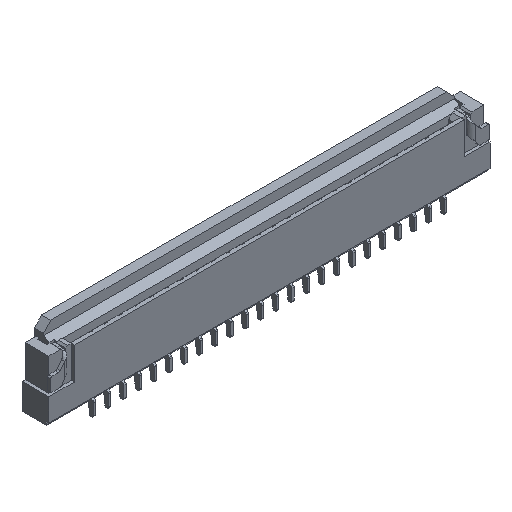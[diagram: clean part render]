
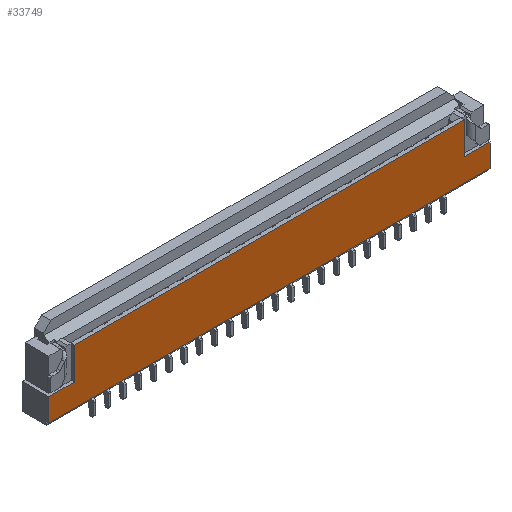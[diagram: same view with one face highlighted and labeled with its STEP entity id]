
A CAD part, isometric view. The second image highlights one B-rep face of the part: STEP entity #33749.
In plain terms, the highlighted planar face has unit normal (0, -1, 0).
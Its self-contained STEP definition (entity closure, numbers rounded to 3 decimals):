
#1705=DIRECTION('',(0.,0.,-1.));
#1706=VECTOR('',#1705,1.5);
#1707=CARTESIAN_POINT('',(-11.95,-0.875,-0.15));
#1708=LINE('',#1707,#1706);
#1709=DIRECTION('',(-1.,0.,0.));
#1710=VECTOR('',#1709,1.665);
#1711=CARTESIAN_POINT('',(-10.285,-0.875,-0.15));
#1712=LINE('',#1711,#1710);
#1713=DIRECTION('',(0.,0.,-1.));
#1714=VECTOR('',#1713,2.1);
#1715=CARTESIAN_POINT('',(-10.285,-0.875,1.95));
#1716=LINE('',#1715,#1714);
#1717=DIRECTION('',(1.,0.,0.));
#1718=VECTOR('',#1717,25.57);
#1719=CARTESIAN_POINT('',(-10.285,-0.875,1.95));
#1720=LINE('',#1719,#1718);
#1721=DIRECTION('',(0.,0.,-1.));
#1722=VECTOR('',#1721,2.1);
#1723=CARTESIAN_POINT('',(15.285,-0.875,1.95));
#1724=LINE('',#1723,#1722);
#1725=DIRECTION('',(1.,0.,0.));
#1726=VECTOR('',#1725,1.665);
#1727=CARTESIAN_POINT('',(15.285,-0.875,-0.15));
#1728=LINE('',#1727,#1726);
#1729=DIRECTION('',(0.,0.,-1.));
#1730=VECTOR('',#1729,1.5);
#1731=CARTESIAN_POINT('',(16.95,-0.875,-0.15));
#1732=LINE('',#1731,#1730);
#1785=DIRECTION('',(1.,0.,0.));
#1786=VECTOR('',#1785,28.9);
#1787=CARTESIAN_POINT('',(-11.95,-0.875,-1.65));
#1788=LINE('',#1787,#1786);
#24685=CARTESIAN_POINT('',(15.285,-0.875,1.95));
#24686=VERTEX_POINT('',#24685);
#24687=CARTESIAN_POINT('',(15.285,-0.875,-0.15));
#24688=VERTEX_POINT('',#24687);
#24689=CARTESIAN_POINT('',(16.95,-0.875,-0.15));
#24690=VERTEX_POINT('',#24689);
#24691=CARTESIAN_POINT('',(16.95,-0.875,-1.65));
#24692=VERTEX_POINT('',#24691);
#28610=CARTESIAN_POINT('',(-10.285,-0.875,1.95));
#28611=VERTEX_POINT('',#28610);
#28612=CARTESIAN_POINT('',(-10.285,-0.875,-0.15));
#28613=VERTEX_POINT('',#28612);
#28614=CARTESIAN_POINT('',(-11.95,-0.875,-0.15));
#28615=VERTEX_POINT('',#28614);
#28616=CARTESIAN_POINT('',(-11.95,-0.875,-1.65));
#28617=VERTEX_POINT('',#28616);
#33727=CARTESIAN_POINT('',(0.,-0.875,0.15));
#33728=DIRECTION('',(0.,1.,0.));
#33729=DIRECTION('',(0.,0.,-1.));
#33730=AXIS2_PLACEMENT_3D('',#33727,#33728,#33729);
#33731=PLANE('',#33730);
#33733=ORIENTED_EDGE('',*,*,#33732,.F.);
#33735=ORIENTED_EDGE('',*,*,#33734,.F.);
#33737=ORIENTED_EDGE('',*,*,#33736,.F.);
#33739=ORIENTED_EDGE('',*,*,#33738,.F.);
#33740=ORIENTED_EDGE('',*,*,#33509,.T.);
#33742=ORIENTED_EDGE('',*,*,#33741,.T.);
#33744=ORIENTED_EDGE('',*,*,#33743,.T.);
#33746=ORIENTED_EDGE('',*,*,#33745,.T.);
#33747=EDGE_LOOP('',(#33733,#33735,#33737,#33739,#33740,#33742,#33744,#33746));
#33748=FACE_OUTER_BOUND('',#33747,.F.);
#33509=EDGE_CURVE('',#28611,#24686,#1720,.T.);
#33732=EDGE_CURVE('',#28617,#24692,#1788,.T.);
#33734=EDGE_CURVE('',#28615,#28617,#1708,.T.);
#33736=EDGE_CURVE('',#28613,#28615,#1712,.T.);
#33738=EDGE_CURVE('',#28611,#28613,#1716,.T.);
#33741=EDGE_CURVE('',#24686,#24688,#1724,.T.);
#33743=EDGE_CURVE('',#24688,#24690,#1728,.T.);
#33745=EDGE_CURVE('',#24690,#24692,#1732,.T.);
#33749=ADVANCED_FACE('',(#33748),#33731,.F.);
